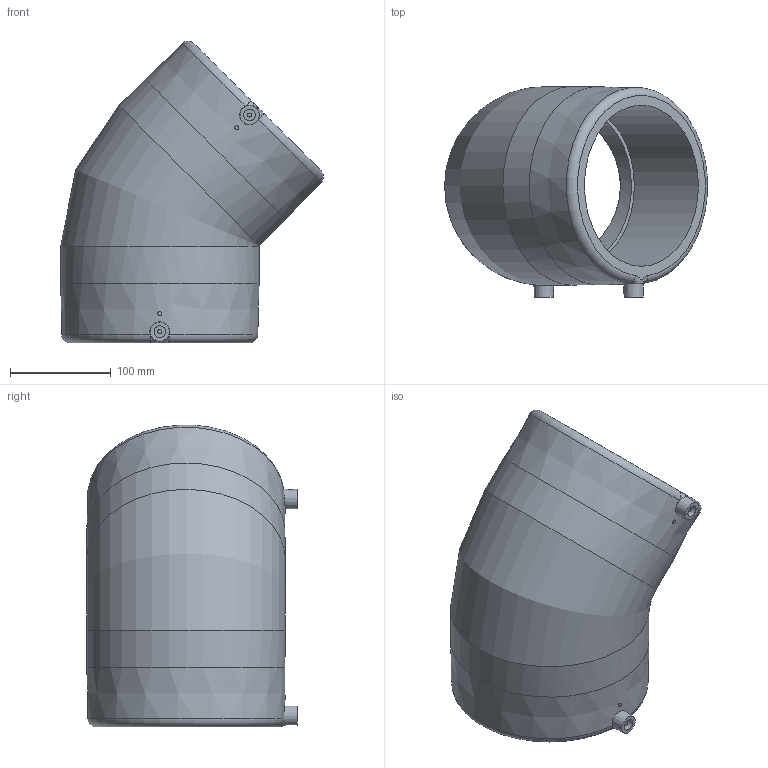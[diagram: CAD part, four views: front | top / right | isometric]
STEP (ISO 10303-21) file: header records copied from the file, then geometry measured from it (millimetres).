
FILE_DESCRIPTION(/* description */ ('Unknown'),/* implementation_level */ '2;1');
FILE_NAME(/* name */ 'GE4P160C',/* time_stamp */ '2020-12-02T10:02:04+01:00',/* author */ ('Unknown'),/* organization */ ('Unknown'),/* preprocessor_version */ 'ST-DEVELOPER v16.7',/* originating_system */ 'Solid Edge',/* authorisation */ 'Unknown');
FILE_SCHEMA (('AUTOMOTIVE_DESIGN {1 0 10303 214 3 1 1}'));
Length unit declared in the file: millimetre
Products named in the file (1): GE4P160C
Bounding box: 260.84 x 209 x 299.34 mm (x, y, z)
Volume: 2932979.3 mm3; surface area: 322395.4 mm2
Topology: 1 solids, 1 shells, 34 faces, 74 edges, 50 vertices
Faces by surface type: plane 12, cylinder 12, cone 4, torus 4, bspline 2
Full cylindrical faces by diameter (mm): 4 x4, 11.5 x2, 152 x2, 160 x2, 197 x2
Entity records: 984 total; most frequent: CARTESIAN_POINT 346, DIRECTION 132, ORIENTED_EDGE 90, AXIS2_PLACEMENT_3D 66, EDGE_LOOP 61, FACE_BOUND 61, EDGE_CURVE 45, VERTEX_POINT 38
